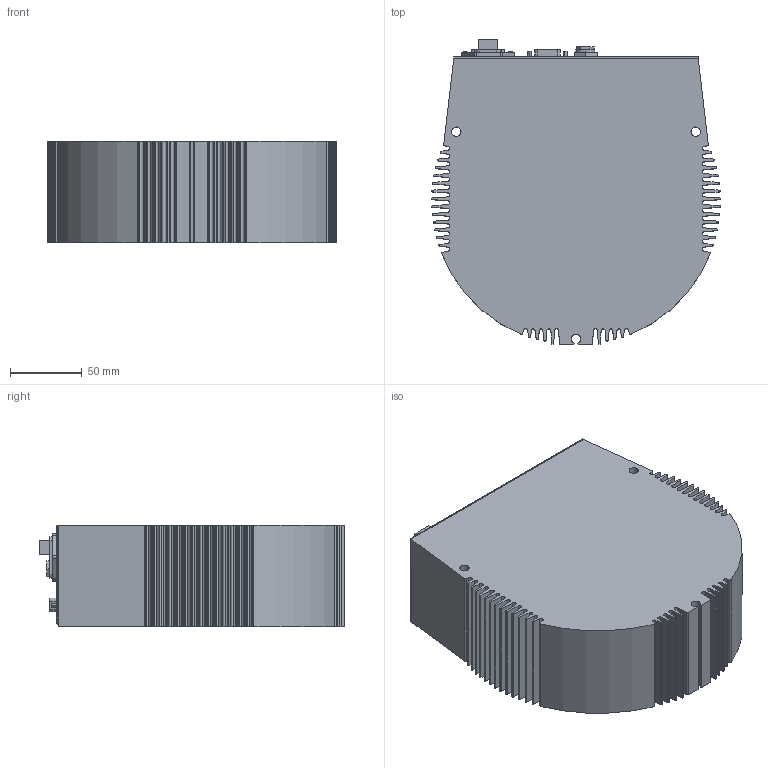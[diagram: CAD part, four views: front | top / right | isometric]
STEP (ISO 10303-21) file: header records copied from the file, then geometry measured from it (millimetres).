
FILE_DESCRIPTION (( 'STEP AP214' ), '1' );
FILE_NAME ('CNTR ON BOARD X3512-64016.STEP', '2017-09-22T13:09:12', ( '' ), ( '' ), 'SwSTEP 2.0', 'SolidWorks 2017', '' );
FILE_SCHEMA (( 'AUTOMOTIVE_DESIGN' ));
Length unit declared in the file: millimetre
Products named in the file (1): CNTR ON BOARD X3512-64016
Bounding box: 200.58 x 211.77 x 70.2 mm (x, y, z)
Volume: 2313924.9 mm3; surface area: 184952.2 mm2
Topology: 13 solids, 13 shells, 1259 faces, 3410 edges, 2269 vertices
Faces by surface type: plane 678, cylinder 442, bspline 139
Entity records: 52729 total; most frequent: CARTESIAN_POINT 15050, ORIENTED_EDGE 6820, DIRECTION 6208, EDGE_CURVE 3410, VERTEX_POINT 2269, VECTOR 2258, LINE 2258, AXIS2_PLACEMENT_3D 1975
